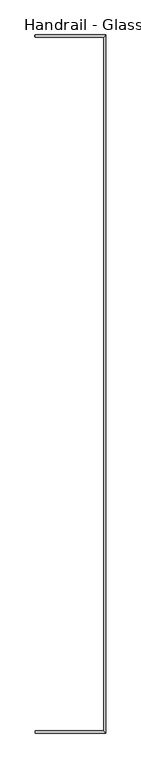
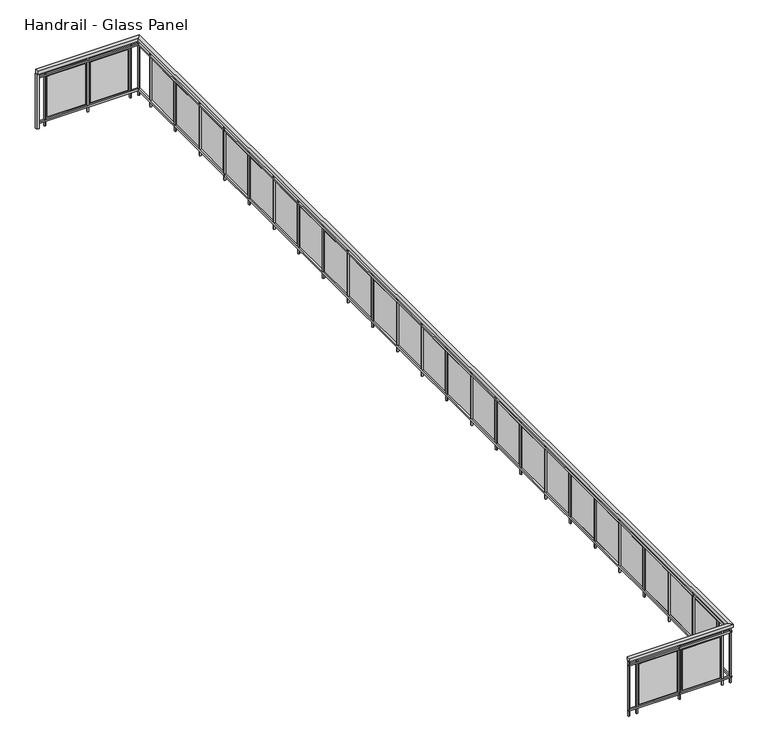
"""IFC4 building model written with IfcOpenShell, lengths in millimetres: railing geometry, Handrail - Glass Panel."""

from ifc_helpers import new_model, si_unit, point, frame, frame_2d, origin, place, context, project, spatial, polyline, circle_curve, trimmed, segment, composite_curve, outline, extrude, faceted_brep, source, transform, mapped, element, save


def handrail_glass_panel_72f4f8c0(model_context):
    return source(origin(), model_context, "Body", "SolidModel", [
        faceted_brep([(29418.8682249, 5296.5851347, 12764.4), (29418.8682249, 5347.3851347, 12764.4), (29418.8682249, 5347.3851347, 12713.6), (29418.8682249, 5296.5851347, 12713.6), (30911.6134101, 5296.5851347, 12764.4), (30962.4134101, 5347.3851347, 12764.4), (30962.4134101, 5347.3851347, 12713.6), (30911.6134101, 5296.5851347, 12713.6), (30911.6134101, -9871.8148653, 12764.4), (30962.4134101, -9922.6148653, 12764.4), (30962.4134101, -9922.6148653, 12713.6), (30911.6134101, -9871.8148653, 12713.6), (29418.8682249, -9871.8148653, 12764.4), (29418.8682249, -9871.8148653, 12713.6), (29418.8682249, -9922.6148653, 12713.6), (29418.8682249, -9922.6148653, 12764.4)], [[[0, 1, 2, 3]], [[1, 0, 4, 5]], [[2, 1, 5, 6]], [[3, 2, 6, 7]], [[0, 3, 7, 4]], [[5, 4, 8, 9]], [[6, 5, 9, 10]], [[7, 6, 10, 11]], [[4, 7, 11, 8]], [[12, 13, 14, 15]], [[9, 8, 12, 15]], [[10, 9, 15, 14]], [[11, 10, 14, 13]], [[8, 11, 13, 12]]]),
        faceted_brep([(29418.8682249, 5309.2851347, 12662.8), (29418.8682249, 5334.6851347, 12662.8), (29418.8682249, 5334.6851347, 12637.4), (29418.8682249, 5309.2851347, 12637.4), (30924.3134101, 5309.2851347, 12662.8), (30949.7134101, 5334.6851347, 12662.8), (30949.7134101, 5334.6851347, 12637.4), (30924.3134101, 5309.2851347, 12637.4), (30924.3134101, -9884.5148653, 12662.8), (30949.7134101, -9909.9148653, 12662.8), (30949.7134101, -9909.9148653, 12637.4), (30924.3134101, -9884.5148653, 12637.4), (29418.8682249, -9884.5148653, 12662.8), (29418.8682249, -9884.5148653, 12637.4), (29418.8682249, -9909.9148653, 12637.4), (29418.8682249, -9909.9148653, 12662.8)], [[[0, 1, 2, 3]], [[1, 0, 4, 5]], [[2, 1, 5, 6]], [[3, 2, 6, 7]], [[0, 3, 7, 4]], [[5, 4, 8, 9]], [[6, 5, 9, 10]], [[7, 6, 10, 11]], [[4, 7, 11, 8]], [[12, 13, 14, 15]], [[9, 8, 12, 15]], [[10, 9, 15, 14]], [[11, 10, 14, 13]], [[8, 11, 13, 12]]]),
        faceted_brep([(29418.8682249, 5309.2851347, 11951.6), (29418.8682249, 5334.6851347, 11951.6), (29418.8682249, 5334.6851347, 11926.2), (29418.8682249, 5309.2851347, 11926.2), (30924.3134101, 5309.2851347, 11951.6), (30949.7134101, 5334.6851347, 11951.6), (30949.7134101, 5334.6851347, 11926.2), (30924.3134101, 5309.2851347, 11926.2), (30924.3134101, -9884.5148653, 11951.6), (30949.7134101, -9909.9148653, 11951.6), (30949.7134101, -9909.9148653, 11926.2), (30924.3134101, -9884.5148653, 11926.2), (29418.8682249, -9884.5148653, 11951.6), (29418.8682249, -9884.5148653, 11926.2), (29418.8682249, -9909.9148653, 11926.2), (29418.8682249, -9909.9148653, 11951.6)], [[[0, 1, 2, 3]], [[1, 0, 4, 5]], [[2, 1, 5, 6]], [[3, 2, 6, 7]], [[0, 3, 7, 4]], [[5, 4, 8, 9]], [[6, 5, 9, 10]], [[7, 6, 10, 11]], [[4, 7, 11, 8]], [[12, 13, 14, 15]], [[9, 8, 12, 15]], [[10, 9, 15, 14]], [[11, 10, 14, 13]], [[8, 11, 13, 12]]]),
        extrude(outline(polyline([(29552.4658175, -9887.6898653), (29552.4658175, -9906.7398653), (29533.4158175, -9906.7398653), (29533.4158175, -9887.6898653), (29552.4658175, -9887.6898653)])), frame((0.0, 0.0, 11850.0), z_axis=(0.0, 0.0, 1.0), x_axis=(1.0, 0.0, 0.0)), (0.0, 0.0, 1.0), 863.6),
        extrude(outline(polyline([(30139.8408175, -9903.5648653), (29581.0408175, -9903.5648653), (29581.0408175, -9897.2148653), (30139.8408175, -9897.2148653), (30139.8408175, -9903.5648653)])), frame((0.0, 0.0, 11977.0), z_axis=(0.0, 0.0, 1.0), x_axis=(1.0, 0.0, 0.0)), (0.0, 0.0, 1.0), 635.0),
        extrude(outline(polyline([(30187.4658175, -9887.6898653), (30187.4658175, -9906.7398653), (30168.4158175, -9906.7398653), (30168.4158175, -9887.6898653), (30187.4658175, -9887.6898653)])), frame((0.0, 0.0, 11850.0), z_axis=(0.0, 0.0, 1.0), x_axis=(1.0, 0.0, 0.0)), (0.0, 0.0, 1.0), 863.6),
        extrude(outline(polyline([(30774.8408175, -9903.5648653), (30216.0408175, -9903.5648653), (30216.0408175, -9897.2148653), (30774.8408175, -9897.2148653), (30774.8408175, -9903.5648653)])), frame((0.0, 0.0, 11977.0), z_axis=(0.0, 0.0, 1.0), x_axis=(1.0, 0.0, 0.0)), (0.0, 0.0, 1.0), 635.0),
        extrude(outline(polyline([(30822.4658175, -9887.6898653), (30822.4658175, -9906.7398653), (30803.4158175, -9906.7398653), (30803.4158175, -9887.6898653), (30822.4658175, -9887.6898653)])), frame((0.0, 0.0, 11850.0), z_axis=(0.0, 0.0, 1.0), x_axis=(1.0, 0.0, 0.0)), (0.0, 0.0, 1.0), 863.6),
        extrude(outline(polyline([(30927.4884101, -9580.5898653), (30946.5384101, -9580.5898653), (30946.5384101, -9599.6398653), (30927.4884101, -9599.6398653), (30927.4884101, -9580.5898653)])), frame((0.0, 0.0, 11850.0), z_axis=(0.0, 0.0, 1.0), x_axis=(1.0, 0.0, 0.0)), (0.0, 0.0, 1.0), 863.6),
        extrude(outline(polyline([(30943.3634101, -8993.2148653), (30943.3634101, -9552.0148653), (30937.0134101, -9552.0148653), (30937.0134101, -8993.2148653), (30943.3634101, -8993.2148653)])), frame((0.0, 0.0, 11977.0), z_axis=(0.0, 0.0, 1.0), x_axis=(1.0, 0.0, 0.0)), (0.0, 0.0, 1.0), 635.0),
        extrude(outline(polyline([(30927.4884101, -8945.5898653), (30946.5384101, -8945.5898653), (30946.5384101, -8964.6398653), (30927.4884101, -8964.6398653), (30927.4884101, -8945.5898653)])), frame((0.0, 0.0, 11850.0), z_axis=(0.0, 0.0, 1.0), x_axis=(1.0, 0.0, 0.0)), (0.0, 0.0, 1.0), 863.6),
        extrude(outline(polyline([(30943.3634101, -8358.2148653), (30943.3634101, -8917.0148653), (30937.0134101, -8917.0148653), (30937.0134101, -8358.2148653), (30943.3634101, -8358.2148653)])), frame((0.0, 0.0, 11977.0), z_axis=(0.0, 0.0, 1.0), x_axis=(1.0, 0.0, 0.0)), (0.0, 0.0, 1.0), 635.0),
        extrude(outline(polyline([(30927.4884101, -8310.5898653), (30946.5384101, -8310.5898653), (30946.5384101, -8329.6398653), (30927.4884101, -8329.6398653), (30927.4884101, -8310.5898653)])), frame((0.0, 0.0, 11850.0), z_axis=(0.0, 0.0, 1.0), x_axis=(1.0, 0.0, 0.0)), (0.0, 0.0, 1.0), 863.6),
        extrude(outline(polyline([(30943.3634101, -7723.2148653), (30943.3634101, -8282.0148653), (30937.0134101, -8282.0148653), (30937.0134101, -7723.2148653), (30943.3634101, -7723.2148653)])), frame((0.0, 0.0, 11977.0), z_axis=(0.0, 0.0, 1.0), x_axis=(1.0, 0.0, 0.0)), (0.0, 0.0, 1.0), 635.0),
        extrude(outline(polyline([(30927.4884101, -7675.5898653), (30946.5384101, -7675.5898653), (30946.5384101, -7694.6398653), (30927.4884101, -7694.6398653), (30927.4884101, -7675.5898653)])), frame((0.0, 0.0, 11850.0), z_axis=(0.0, 0.0, 1.0), x_axis=(1.0, 0.0, 0.0)), (0.0, 0.0, 1.0), 863.6),
        extrude(outline(polyline([(30943.3634101, -7088.2148653), (30943.3634101, -7647.0148653), (30937.0134101, -7647.0148653), (30937.0134101, -7088.2148653), (30943.3634101, -7088.2148653)])), frame((0.0, 0.0, 11977.0), z_axis=(0.0, 0.0, 1.0), x_axis=(1.0, 0.0, 0.0)), (0.0, 0.0, 1.0), 635.0),
        extrude(outline(polyline([(30927.4884101, -7040.5898653), (30946.5384101, -7040.5898653), (30946.5384101, -7059.6398653), (30927.4884101, -7059.6398653), (30927.4884101, -7040.5898653)])), frame((0.0, 0.0, 11850.0), z_axis=(0.0, 0.0, 1.0), x_axis=(1.0, 0.0, 0.0)), (0.0, 0.0, 1.0), 863.6),
        extrude(outline(polyline([(30943.3634101, -6453.2148653), (30943.3634101, -7012.0148653), (30937.0134101, -7012.0148653), (30937.0134101, -6453.2148653), (30943.3634101, -6453.2148653)])), frame((0.0, 0.0, 11977.0), z_axis=(0.0, 0.0, 1.0), x_axis=(1.0, 0.0, 0.0)), (0.0, 0.0, 1.0), 635.0),
        extrude(outline(polyline([(30927.4884101, -6405.5898653), (30946.5384101, -6405.5898653), (30946.5384101, -6424.6398653), (30927.4884101, -6424.6398653), (30927.4884101, -6405.5898653)])), frame((0.0, 0.0, 11850.0), z_axis=(0.0, 0.0, 1.0), x_axis=(1.0, 0.0, 0.0)), (0.0, 0.0, 1.0), 863.6),
        extrude(outline(polyline([(30943.3634101, -5818.2148653), (30943.3634101, -6377.0148653), (30937.0134101, -6377.0148653), (30937.0134101, -5818.2148653), (30943.3634101, -5818.2148653)])), frame((0.0, 0.0, 11977.0), z_axis=(0.0, 0.0, 1.0), x_axis=(1.0, 0.0, 0.0)), (0.0, 0.0, 1.0), 635.0),
        extrude(outline(polyline([(30927.4884101, -5770.5898653), (30946.5384101, -5770.5898653), (30946.5384101, -5789.6398653), (30927.4884101, -5789.6398653), (30927.4884101, -5770.5898653)])), frame((0.0, 0.0, 11850.0), z_axis=(0.0, 0.0, 1.0), x_axis=(1.0, 0.0, 0.0)), (0.0, 0.0, 1.0), 863.6),
        extrude(outline(polyline([(30943.3634101, -5183.2148653), (30943.3634101, -5742.0148653), (30937.0134101, -5742.0148653), (30937.0134101, -5183.2148653), (30943.3634101, -5183.2148653)])), frame((0.0, 0.0, 11977.0), z_axis=(0.0, 0.0, 1.0), x_axis=(1.0, 0.0, 0.0)), (0.0, 0.0, 1.0), 635.0),
        extrude(outline(polyline([(30927.4884101, -5135.5898653), (30946.5384101, -5135.5898653), (30946.5384101, -5154.6398653), (30927.4884101, -5154.6398653), (30927.4884101, -5135.5898653)])), frame((0.0, 0.0, 11850.0), z_axis=(0.0, 0.0, 1.0), x_axis=(1.0, 0.0, 0.0)), (0.0, 0.0, 1.0), 863.6),
        extrude(outline(polyline([(30943.3634101, -4548.2148653), (30943.3634101, -5107.0148653), (30937.0134101, -5107.0148653), (30937.0134101, -4548.2148653), (30943.3634101, -4548.2148653)])), frame((0.0, 0.0, 11977.0), z_axis=(0.0, 0.0, 1.0), x_axis=(1.0, 0.0, 0.0)), (0.0, 0.0, 1.0), 635.0),
        extrude(outline(polyline([(30927.4884101, -4500.5898653), (30946.5384101, -4500.5898653), (30946.5384101, -4519.6398653), (30927.4884101, -4519.6398653), (30927.4884101, -4500.5898653)])), frame((0.0, 0.0, 11850.0), z_axis=(0.0, 0.0, 1.0), x_axis=(1.0, 0.0, 0.0)), (0.0, 0.0, 1.0), 863.6),
        extrude(outline(polyline([(30943.3634101, -3913.2148653), (30943.3634101, -4472.0148653), (30937.0134101, -4472.0148653), (30937.0134101, -3913.2148653), (30943.3634101, -3913.2148653)])), frame((0.0, 0.0, 11977.0), z_axis=(0.0, 0.0, 1.0), x_axis=(1.0, 0.0, 0.0)), (0.0, 0.0, 1.0), 635.0),
        extrude(outline(polyline([(30927.4884101, -3865.5898653), (30946.5384101, -3865.5898653), (30946.5384101, -3884.6398653), (30927.4884101, -3884.6398653), (30927.4884101, -3865.5898653)])), frame((0.0, 0.0, 11850.0), z_axis=(0.0, 0.0, 1.0), x_axis=(1.0, 0.0, 0.0)), (0.0, 0.0, 1.0), 863.6),
        extrude(outline(polyline([(30943.3634101, -3278.2148653), (30943.3634101, -3837.0148653), (30937.0134101, -3837.0148653), (30937.0134101, -3278.2148653), (30943.3634101, -3278.2148653)])), frame((0.0, 0.0, 11977.0), z_axis=(0.0, 0.0, 1.0), x_axis=(1.0, 0.0, 0.0)), (0.0, 0.0, 1.0), 635.0),
        extrude(outline(polyline([(30927.4884101, -3230.5898653), (30946.5384101, -3230.5898653), (30946.5384101, -3249.6398653), (30927.4884101, -3249.6398653), (30927.4884101, -3230.5898653)])), frame((0.0, 0.0, 11850.0), z_axis=(0.0, 0.0, 1.0), x_axis=(1.0, 0.0, 0.0)), (0.0, 0.0, 1.0), 863.6),
        extrude(outline(polyline([(30943.3634101, -2643.2148653), (30943.3634101, -3202.0148653), (30937.0134101, -3202.0148653), (30937.0134101, -2643.2148653), (30943.3634101, -2643.2148653)])), frame((0.0, 0.0, 11977.0), z_axis=(0.0, 0.0, 1.0), x_axis=(1.0, 0.0, 0.0)), (0.0, 0.0, 1.0), 635.0),
        extrude(outline(polyline([(30927.4884101, -2595.5898653), (30946.5384101, -2595.5898653), (30946.5384101, -2614.6398653), (30927.4884101, -2614.6398653), (30927.4884101, -2595.5898653)])), frame((0.0, 0.0, 11850.0), z_axis=(0.0, 0.0, 1.0), x_axis=(1.0, 0.0, 0.0)), (0.0, 0.0, 1.0), 863.6),
        extrude(outline(polyline([(30943.3634101, -2008.2148653), (30943.3634101, -2567.0148653), (30937.0134101, -2567.0148653), (30937.0134101, -2008.2148653), (30943.3634101, -2008.2148653)])), frame((0.0, 0.0, 11977.0), z_axis=(0.0, 0.0, 1.0), x_axis=(1.0, 0.0, 0.0)), (0.0, 0.0, 1.0), 635.0),
        extrude(outline(polyline([(30927.4884101, -1960.5898653), (30946.5384101, -1960.5898653), (30946.5384101, -1979.6398653), (30927.4884101, -1979.6398653), (30927.4884101, -1960.5898653)])), frame((0.0, 0.0, 11850.0), z_axis=(0.0, 0.0, 1.0), x_axis=(1.0, 0.0, 0.0)), (0.0, 0.0, 1.0), 863.6),
        extrude(outline(polyline([(30943.3634101, -1373.2148653), (30943.3634101, -1932.0148653), (30937.0134101, -1932.0148653), (30937.0134101, -1373.2148653), (30943.3634101, -1373.2148653)])), frame((0.0, 0.0, 11977.0), z_axis=(0.0, 0.0, 1.0), x_axis=(1.0, 0.0, 0.0)), (0.0, 0.0, 1.0), 635.0),
        extrude(outline(polyline([(30927.4884101, -1325.5898653), (30946.5384101, -1325.5898653), (30946.5384101, -1344.6398653), (30927.4884101, -1344.6398653), (30927.4884101, -1325.5898653)])), frame((0.0, 0.0, 11850.0), z_axis=(0.0, 0.0, 1.0), x_axis=(1.0, 0.0, 0.0)), (0.0, 0.0, 1.0), 863.6),
        extrude(outline(polyline([(30943.3634101, -738.2148653), (30943.3634101, -1297.0148653), (30937.0134101, -1297.0148653), (30937.0134101, -738.2148653), (30943.3634101, -738.2148653)])), frame((0.0, 0.0, 11977.0), z_axis=(0.0, 0.0, 1.0), x_axis=(1.0, 0.0, 0.0)), (0.0, 0.0, 1.0), 635.0),
        extrude(outline(polyline([(30927.4884101, -690.5898653), (30946.5384101, -690.5898653), (30946.5384101, -709.6398653), (30927.4884101, -709.6398653), (30927.4884101, -690.5898653)])), frame((0.0, 0.0, 11850.0), z_axis=(0.0, 0.0, 1.0), x_axis=(1.0, 0.0, 0.0)), (0.0, 0.0, 1.0), 863.6),
        extrude(outline(polyline([(30943.3634101, -103.2148653), (30943.3634101, -662.0148653), (30937.0134101, -662.0148653), (30937.0134101, -103.2148653), (30943.3634101, -103.2148653)])), frame((0.0, 0.0, 11977.0), z_axis=(0.0, 0.0, 1.0), x_axis=(1.0, 0.0, 0.0)), (0.0, 0.0, 1.0), 635.0),
        extrude(outline(polyline([(30927.4884101, -55.5898653), (30946.5384101, -55.5898653), (30946.5384101, -74.6398653), (30927.4884101, -74.6398653), (30927.4884101, -55.5898653)])), frame((0.0, 0.0, 11850.0), z_axis=(0.0, 0.0, 1.0), x_axis=(1.0, 0.0, 0.0)), (0.0, 0.0, 1.0), 863.6),
        extrude(outline(polyline([(30943.3634101, 531.7851347), (30943.3634101, -27.0148653), (30937.0134101, -27.0148653), (30937.0134101, 531.7851347), (30943.3634101, 531.7851347)])), frame((0.0, 0.0, 11977.0), z_axis=(0.0, 0.0, 1.0), x_axis=(1.0, 0.0, 0.0)), (0.0, 0.0, 1.0), 635.0),
        extrude(outline(polyline([(30927.4884101, 579.4101347), (30946.5384101, 579.4101347), (30946.5384101, 560.3601347), (30927.4884101, 560.3601347), (30927.4884101, 579.4101347)])), frame((0.0, 0.0, 11850.0), z_axis=(0.0, 0.0, 1.0), x_axis=(1.0, 0.0, 0.0)), (0.0, 0.0, 1.0), 863.6),
        extrude(outline(polyline([(30943.3634101, 1166.7851347), (30943.3634101, 607.9851347), (30937.0134101, 607.9851347), (30937.0134101, 1166.7851347), (30943.3634101, 1166.7851347)])), frame((0.0, 0.0, 11977.0), z_axis=(0.0, 0.0, 1.0), x_axis=(1.0, 0.0, 0.0)), (0.0, 0.0, 1.0), 635.0),
        extrude(outline(polyline([(30927.4884101, 1214.4101347), (30946.5384101, 1214.4101347), (30946.5384101, 1195.3601347), (30927.4884101, 1195.3601347), (30927.4884101, 1214.4101347)])), frame((0.0, 0.0, 11850.0), z_axis=(0.0, 0.0, 1.0), x_axis=(1.0, 0.0, 0.0)), (0.0, 0.0, 1.0), 863.6),
        extrude(outline(polyline([(30943.3634101, 1801.7851347), (30943.3634101, 1242.9851347), (30937.0134101, 1242.9851347), (30937.0134101, 1801.7851347), (30943.3634101, 1801.7851347)])), frame((0.0, 0.0, 11977.0), z_axis=(0.0, 0.0, 1.0), x_axis=(1.0, 0.0, 0.0)), (0.0, 0.0, 1.0), 635.0),
        extrude(outline(polyline([(30927.4884101, 1849.4101347), (30946.5384101, 1849.4101347), (30946.5384101, 1830.3601347), (30927.4884101, 1830.3601347), (30927.4884101, 1849.4101347)])), frame((0.0, 0.0, 11850.0), z_axis=(0.0, 0.0, 1.0), x_axis=(1.0, 0.0, 0.0)), (0.0, 0.0, 1.0), 863.6),
        extrude(outline(polyline([(30943.3634101, 2436.7851347), (30943.3634101, 1877.9851347), (30937.0134101, 1877.9851347), (30937.0134101, 2436.7851347), (30943.3634101, 2436.7851347)])), frame((0.0, 0.0, 11977.0), z_axis=(0.0, 0.0, 1.0), x_axis=(1.0, 0.0, 0.0)), (0.0, 0.0, 1.0), 635.0),
        extrude(outline(polyline([(30927.4884101, 2484.4101347), (30946.5384101, 2484.4101347), (30946.5384101, 2465.3601347), (30927.4884101, 2465.3601347), (30927.4884101, 2484.4101347)])), frame((0.0, 0.0, 11850.0), z_axis=(0.0, 0.0, 1.0), x_axis=(1.0, 0.0, 0.0)), (0.0, 0.0, 1.0), 863.6),
        extrude(outline(polyline([(30943.3634101, 3071.7851347), (30943.3634101, 2512.9851347), (30937.0134101, 2512.9851347), (30937.0134101, 3071.7851347), (30943.3634101, 3071.7851347)])), frame((0.0, 0.0, 11977.0), z_axis=(0.0, 0.0, 1.0), x_axis=(1.0, 0.0, 0.0)), (0.0, 0.0, 1.0), 635.0),
        extrude(outline(polyline([(30927.4884101, 3119.4101347), (30946.5384101, 3119.4101347), (30946.5384101, 3100.3601347), (30927.4884101, 3100.3601347), (30927.4884101, 3119.4101347)])), frame((0.0, 0.0, 11850.0), z_axis=(0.0, 0.0, 1.0), x_axis=(1.0, 0.0, 0.0)), (0.0, 0.0, 1.0), 863.6),
        extrude(outline(polyline([(30943.3634101, 3706.7851347), (30943.3634101, 3147.9851347), (30937.0134101, 3147.9851347), (30937.0134101, 3706.7851347), (30943.3634101, 3706.7851347)])), frame((0.0, 0.0, 11977.0), z_axis=(0.0, 0.0, 1.0), x_axis=(1.0, 0.0, 0.0)), (0.0, 0.0, 1.0), 635.0),
        extrude(outline(polyline([(30927.4884101, 3754.4101347), (30946.5384101, 3754.4101347), (30946.5384101, 3735.3601347), (30927.4884101, 3735.3601347), (30927.4884101, 3754.4101347)])), frame((0.0, 0.0, 11850.0), z_axis=(0.0, 0.0, 1.0), x_axis=(1.0, 0.0, 0.0)), (0.0, 0.0, 1.0), 863.6),
        extrude(outline(polyline([(30943.3634101, 4341.7851347), (30943.3634101, 3782.9851347), (30937.0134101, 3782.9851347), (30937.0134101, 4341.7851347), (30943.3634101, 4341.7851347)])), frame((0.0, 0.0, 11977.0), z_axis=(0.0, 0.0, 1.0), x_axis=(1.0, 0.0, 0.0)), (0.0, 0.0, 1.0), 635.0),
        extrude(outline(polyline([(30927.4884101, 4389.4101347), (30946.5384101, 4389.4101347), (30946.5384101, 4370.3601347), (30927.4884101, 4370.3601347), (30927.4884101, 4389.4101347)])), frame((0.0, 0.0, 11850.0), z_axis=(0.0, 0.0, 1.0), x_axis=(1.0, 0.0, 0.0)), (0.0, 0.0, 1.0), 863.6),
        extrude(outline(polyline([(30943.3634101, 4976.7851347), (30943.3634101, 4417.9851347), (30937.0134101, 4417.9851347), (30937.0134101, 4976.7851347), (30943.3634101, 4976.7851347)])), frame((0.0, 0.0, 11977.0), z_axis=(0.0, 0.0, 1.0), x_axis=(1.0, 0.0, 0.0)), (0.0, 0.0, 1.0), 635.0),
        extrude(outline(polyline([(30927.4884101, 5024.4101347), (30946.5384101, 5024.4101347), (30946.5384101, 5005.3601347), (30927.4884101, 5005.3601347), (30927.4884101, 5024.4101347)])), frame((0.0, 0.0, 11850.0), z_axis=(0.0, 0.0, 1.0), x_axis=(1.0, 0.0, 0.0)), (0.0, 0.0, 1.0), 863.6),
        extrude(outline(polyline([(30803.4158175, 5312.4601347), (30803.4158175, 5331.5101347), (30822.4658175, 5331.5101347), (30822.4658175, 5312.4601347), (30803.4158175, 5312.4601347)])), frame((0.0, 0.0, 11850.0), z_axis=(0.0, 0.0, 1.0), x_axis=(1.0, 0.0, 0.0)), (0.0, 0.0, 1.0), 863.6),
        extrude(outline(polyline([(30216.0408175, 5328.3351347), (30774.8408175, 5328.3351347), (30774.8408175, 5321.9851347), (30216.0408175, 5321.9851347), (30216.0408175, 5328.3351347)])), frame((0.0, 0.0, 11977.0), z_axis=(0.0, 0.0, 1.0), x_axis=(1.0, 0.0, 0.0)), (0.0, 0.0, 1.0), 635.0),
        extrude(outline(polyline([(30168.4158175, 5312.4601347), (30168.4158175, 5331.5101347), (30187.4658175, 5331.5101347), (30187.4658175, 5312.4601347), (30168.4158175, 5312.4601347)])), frame((0.0, 0.0, 11850.0), z_axis=(0.0, 0.0, 1.0), x_axis=(1.0, 0.0, 0.0)), (0.0, 0.0, 1.0), 863.6),
        extrude(outline(polyline([(29581.0408175, 5328.3351347), (30139.8408175, 5328.3351347), (30139.8408175, 5321.9851347), (29581.0408175, 5321.9851347), (29581.0408175, 5328.3351347)])), frame((0.0, 0.0, 11977.0), z_axis=(0.0, 0.0, 1.0), x_axis=(1.0, 0.0, 0.0)), (0.0, 0.0, 1.0), 635.0),
        extrude(outline(polyline([(29533.4158175, 5312.4601347), (29533.4158175, 5331.5101347), (29552.4658175, 5331.5101347), (29552.4658175, 5312.4601347), (29533.4158175, 5312.4601347)])), frame((0.0, 0.0, 11850.0), z_axis=(0.0, 0.0, 1.0), x_axis=(1.0, 0.0, 0.0)), (0.0, 0.0, 1.0), 863.6),
        extrude(outline(composite_curve([segment(trimmed(circle_curve(frame_2d((30937.0134101, -9897.2148653)), 12.7), [point((30949.7134101, -9897.2148653))], [point((30924.3134101, -9897.2148653))], False, "CARTESIAN"), True, "CONTINUOUS"), segment(trimmed(circle_curve(frame_2d((30937.0134101, -9897.2148653)), 12.7), [point((30924.3134101, -9897.2148653))], [point((30949.7134101, -9897.2148653))], False, "CARTESIAN"), True, "CONTINUOUS")], self_intersect=False)), frame((0.0, 0.0, 11850.0), z_axis=(0.0, 0.0, 1.0), x_axis=(1.0, 0.0, 0.0)), (0.0, 0.0, 1.0), 863.6),
        extrude(outline(composite_curve([segment(trimmed(circle_curve(frame_2d((30937.0134101, 5321.9851347)), 12.7), [point((30937.0134101, 5334.6851347))], [point((30937.0134101, 5309.2851347))], False, "CARTESIAN"), True, "CONTINUOUS"), segment(trimmed(circle_curve(frame_2d((30937.0134101, 5321.9851347)), 12.7), [point((30937.0134101, 5309.2851347))], [point((30937.0134101, 5334.6851347))], False, "CARTESIAN"), True, "CONTINUOUS")], self_intersect=False)), frame((0.0, 0.0, 11850.0), z_axis=(0.0, 0.0, 1.0), x_axis=(1.0, 0.0, 0.0)), (0.0, 0.0, 1.0), 863.6),
        extrude(outline(composite_curve([segment(trimmed(circle_curve(frame_2d((29428.3932249, -9897.2148653)), 12.7), [point((29428.3932249, -9909.9148653))], [point((29428.3932249, -9884.5148653))], False, "CARTESIAN"), True, "CONTINUOUS"), segment(trimmed(circle_curve(frame_2d((29428.3932249, -9897.2148653)), 12.7), [point((29428.3932249, -9884.5148653))], [point((29428.3932249, -9909.9148653))], False, "CARTESIAN"), True, "CONTINUOUS")], self_intersect=False)), frame((0.0, 0.0, 11850.0), z_axis=(0.0, 0.0, 1.0), x_axis=(1.0, 0.0, 0.0)), (0.0, 0.0, 1.0), 863.6),
        extrude(outline(polyline([(29409.3432249, 5302.9351347), (29409.3432249, 5341.0351347), (29447.4432249, 5341.0351347), (29447.4432249, 5302.9351347), (29409.3432249, 5302.9351347)])), frame((0.0, 0.0, 11850.0), z_axis=(0.0, 0.0, 1.0), x_axis=(1.0, 0.0, 0.0)), (0.0, 0.0, 1.0), 863.6),
    ])


if __name__ == "__main__":
    model = new_model("IFC4")
    model_context = context("Model", 3, world=origin())
    ifc_project = project(units=[si_unit("LENGTHUNIT", "METRE", prefix="MILLI")], contexts=[model_context])
    site = spatial("IfcSite", under=ifc_project)
    building = spatial("IfcBuilding", under=site)
    placement = place(None, origin())
    handrail_glass_panel_shape = handrail_glass_panel_72f4f8c0(model_context)
    element("IfcRailing", 1, ObjectType="Handrail - Glass Panel", at=placement, inside=building, context=model_context, shape_type="MappedRepresentation", body=[
        mapped(handrail_glass_panel_shape, transform((0.0, 0.0, 0.0), x_axis=(1.0, 0.0, 0.0), y_axis=(0.0, 1.0, 0.0), z_axis=(0.0, 0.0, 1.0))),
    ])
    save(model, "model.ifc")
